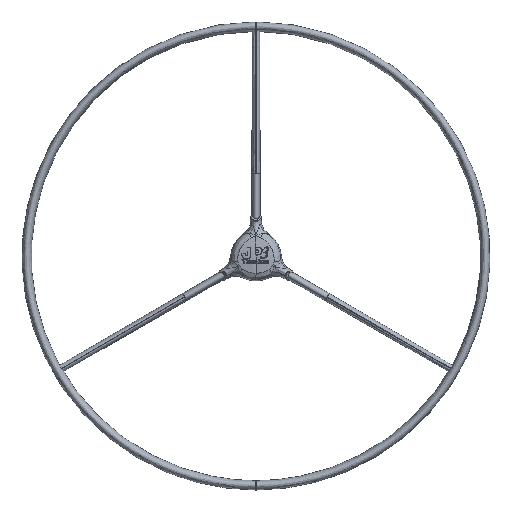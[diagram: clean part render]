
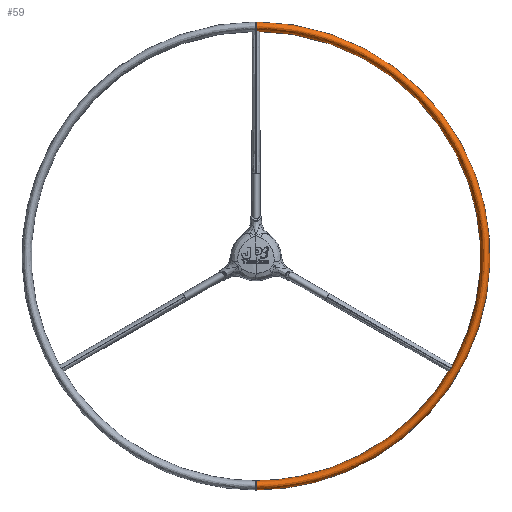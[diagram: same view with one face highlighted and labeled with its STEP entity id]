
A CAD part, front view. The second image highlights one B-rep face of the part: STEP entity #59.
In plain terms, the highlighted free-form (B-spline) face has degree [2, 2] with [5, 5] control points.
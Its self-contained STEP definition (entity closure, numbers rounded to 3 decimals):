
#59=ADVANCED_FACE('',(#311),#3027,.T.);
#311=FACE_OUTER_BOUND('',#528,.T.);
#528=EDGE_LOOP('',(#787,#788,#789,#790));
#787=ORIENTED_EDGE('',*,*,#1947,.T.);
#788=ORIENTED_EDGE('',*,*,#1938,.F.);
#789=ORIENTED_EDGE('',*,*,#1943,.F.);
#790=ORIENTED_EDGE('',*,*,#1940,.T.);
#1938=EDGE_CURVE('',#2575,#2582,#3513,.T.);
#1940=EDGE_CURVE('',#2577,#2581,#3514,.T.);
#1943=EDGE_CURVE('',#2577,#2575,#3516,.T.);
#1947=EDGE_CURVE('',#2581,#2582,#3518,.T.);
#2575=VERTEX_POINT('',#4403);
#2577=VERTEX_POINT('',#4405);
#2581=VERTEX_POINT('',#4409);
#2582=VERTEX_POINT('',#4410);
#3027=(
BOUNDED_SURFACE()
B_SPLINE_SURFACE(2,2,((#4233,#4234,#4235,#4236,#4237),(#4238,#4239,#4240,
#4241,#4242),(#4243,#4244,#4245,#4246,#4247),(#4248,#4249,#4250,#4251,#4252),
(#4253,#4254,#4255,#4256,#4257)),.UNSPECIFIED.,.F.,.F.,.F.)
B_SPLINE_SURFACE_WITH_KNOTS((3,2,3),(3,2,3),(0.,1.571,3.142),
(0.,3.142,6.283),.UNSPECIFIED.)
GEOMETRIC_REPRESENTATION_ITEM()
RATIONAL_B_SPLINE_SURFACE(((1.,0.707,1.,0.707,1.),
(0.707,0.5,0.707,0.5,0.707),(1.,0.707,
1.,0.707,1.),(0.707,0.5,0.707,0.5,0.707),
(1.,0.707,1.,0.707,1.)))
REPRESENTATION_ITEM('')
SURFACE()
);
#3513=(
BOUNDED_CURVE()
B_SPLINE_CURVE(2,(#3969,#3970,#3971,#3972,#3973),.UNSPECIFIED.,.F.,.F.)
B_SPLINE_CURVE_WITH_KNOTS((3,2,3),(0.,1.571,3.142),
.UNSPECIFIED.)
CURVE()
GEOMETRIC_REPRESENTATION_ITEM()
RATIONAL_B_SPLINE_CURVE((1.,0.707,1.,0.707,1.))
REPRESENTATION_ITEM('')
);
#3514=(
BOUNDED_CURVE()
B_SPLINE_CURVE(2,(#3998,#3999,#4000,#4001,#4002),.UNSPECIFIED.,.F.,.F.)
B_SPLINE_CURVE_WITH_KNOTS((3,2,3),(0.,1.571,3.142),
.UNSPECIFIED.)
CURVE()
GEOMETRIC_REPRESENTATION_ITEM()
RATIONAL_B_SPLINE_CURVE((1.,0.707,1.,0.707,1.))
REPRESENTATION_ITEM('')
);
#3516=(
BOUNDED_CURVE()
B_SPLINE_CURVE(2,(#4032,#4033,#4034,#4035,#4036),.UNSPECIFIED.,.F.,.F.)
B_SPLINE_CURVE_WITH_KNOTS((3,2,3),(0.,3.142,6.283),
.UNSPECIFIED.)
CURVE()
GEOMETRIC_REPRESENTATION_ITEM()
RATIONAL_B_SPLINE_CURVE((1.,0.707,1.,0.707,1.))
REPRESENTATION_ITEM('')
);
#3518=(
BOUNDED_CURVE()
B_SPLINE_CURVE(2,(#4090,#4091,#4092,#4093,#4094),.UNSPECIFIED.,.F.,.F.)
B_SPLINE_CURVE_WITH_KNOTS((3,2,3),(0.,3.142,6.283),
.UNSPECIFIED.)
CURVE()
GEOMETRIC_REPRESENTATION_ITEM()
RATIONAL_B_SPLINE_CURVE((1.,0.707,1.,0.707,1.))
REPRESENTATION_ITEM('')
);
#3969=CARTESIAN_POINT('',(-3000.,-19.,-450.));
#3970=CARTESIAN_POINT('',(-3000.,-34.5,-450.));
#3971=CARTESIAN_POINT('',(-3000.,-34.5,-441.));
#3972=CARTESIAN_POINT('',(-3000.,-34.5,-432.));
#3973=CARTESIAN_POINT('',(-3000.,-19.,-432.));
#3998=CARTESIAN_POINT('',(-3000.,-19.,450.));
#3999=CARTESIAN_POINT('',(-3000.,-34.5,450.));
#4000=CARTESIAN_POINT('',(-3000.,-34.5,441.));
#4001=CARTESIAN_POINT('',(-3000.,-34.5,432.));
#4002=CARTESIAN_POINT('',(-3000.,-19.,432.));
#4032=CARTESIAN_POINT('',(-3000.,-19.,450.));
#4033=CARTESIAN_POINT('',(-2550.,-19.,450.));
#4034=CARTESIAN_POINT('',(-2550.,-19.,0.));
#4035=CARTESIAN_POINT('',(-2550.,-19.,-450.));
#4036=CARTESIAN_POINT('',(-3000.,-19.,-450.));
#4090=CARTESIAN_POINT('',(-3000.,-19.,432.));
#4091=CARTESIAN_POINT('',(-2568.,-19.,432.));
#4092=CARTESIAN_POINT('',(-2568.,-19.,0.));
#4093=CARTESIAN_POINT('',(-2568.,-19.,-432.));
#4094=CARTESIAN_POINT('',(-3000.,-19.,-432.));
#4233=CARTESIAN_POINT('',(-3000.,-19.,450.));
#4234=CARTESIAN_POINT('',(-2550.,-19.,450.));
#4235=CARTESIAN_POINT('',(-2550.,-19.,0.));
#4236=CARTESIAN_POINT('',(-2550.,-19.,-450.));
#4237=CARTESIAN_POINT('',(-3000.,-19.,-450.));
#4238=CARTESIAN_POINT('',(-3000.,-34.5,450.));
#4239=CARTESIAN_POINT('',(-2550.,-34.5,450.));
#4240=CARTESIAN_POINT('',(-2550.,-34.5,0.));
#4241=CARTESIAN_POINT('',(-2550.,-34.5,-450.));
#4242=CARTESIAN_POINT('',(-3000.,-34.5,-450.));
#4243=CARTESIAN_POINT('',(-3000.,-34.5,441.));
#4244=CARTESIAN_POINT('',(-2559.,-34.5,441.));
#4245=CARTESIAN_POINT('',(-2559.,-34.5,0.));
#4246=CARTESIAN_POINT('',(-2559.,-34.5,-441.));
#4247=CARTESIAN_POINT('',(-3000.,-34.5,-441.));
#4248=CARTESIAN_POINT('',(-3000.,-34.5,432.));
#4249=CARTESIAN_POINT('',(-2568.,-34.5,432.));
#4250=CARTESIAN_POINT('',(-2568.,-34.5,0.));
#4251=CARTESIAN_POINT('',(-2568.,-34.5,-432.));
#4252=CARTESIAN_POINT('',(-3000.,-34.5,-432.));
#4253=CARTESIAN_POINT('',(-3000.,-19.,432.));
#4254=CARTESIAN_POINT('',(-2568.,-19.,432.));
#4255=CARTESIAN_POINT('',(-2568.,-19.,0.));
#4256=CARTESIAN_POINT('',(-2568.,-19.,-432.));
#4257=CARTESIAN_POINT('',(-3000.,-19.,-432.));
#4403=CARTESIAN_POINT('',(-3000.,-19.,-450.));
#4405=CARTESIAN_POINT('',(-3000.,-19.,450.));
#4409=CARTESIAN_POINT('',(-3000.,-19.,432.));
#4410=CARTESIAN_POINT('',(-3000.,-19.,-432.));
